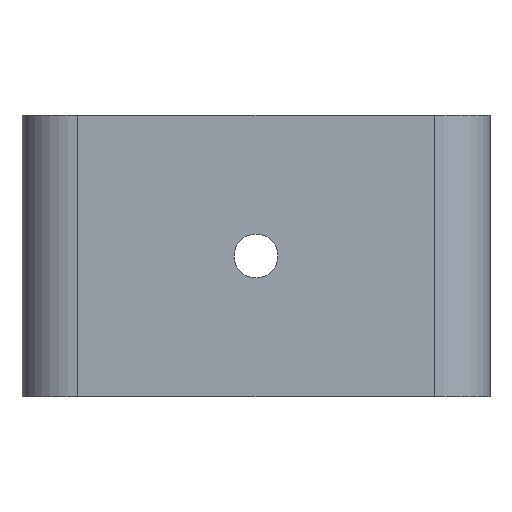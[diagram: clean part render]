
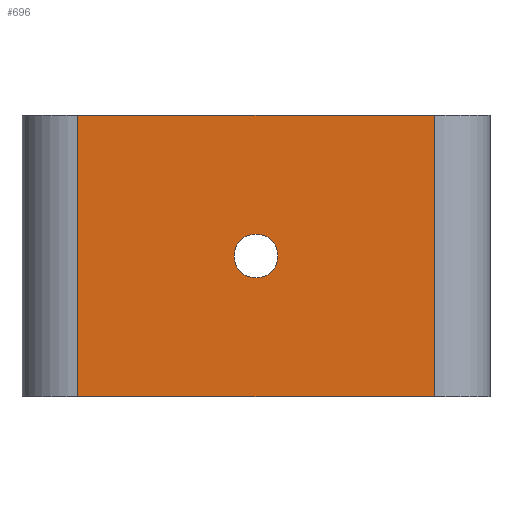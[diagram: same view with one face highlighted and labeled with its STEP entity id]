
A CAD part, front view. The second image highlights one B-rep face of the part: STEP entity #696.
In plain terms, the highlighted planar face has unit normal (0, -1, 0).
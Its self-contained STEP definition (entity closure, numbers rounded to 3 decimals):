
#44 = PLANE('',#45);
#45 = AXIS2_PLACEMENT_3D('',#46,#47,#48);
#46 = CARTESIAN_POINT('',(-31.985,-40.5,19.25));
#47 = DIRECTION('',(0.,0.,1.));
#48 = DIRECTION('',(1.,0.,0.));
#72 = CYLINDRICAL_SURFACE('',#73,7.619);
#73 = AXIS2_PLACEMENT_3D('',#74,#75,#76);
#74 = CARTESIAN_POINT('',(-24.366,-32.881,-19.25));
#75 = DIRECTION('',(0.,0.,1.));
#76 = DIRECTION('',(-1.,-0.,0.));
#100 = PLANE('',#101);
#101 = AXIS2_PLACEMENT_3D('',#102,#103,#104);
#102 = CARTESIAN_POINT('',(-31.985,-40.5,-19.25));
#103 = DIRECTION('',(0.,0.,1.));
#104 = DIRECTION('',(1.,0.,0.));
#143 = VERTEX_POINT('',#144);
#144 = CARTESIAN_POINT('',(-24.366,-40.5,19.25));
#166 = EDGE_CURVE('',#143,#167,#169,.T.);
#167 = VERTEX_POINT('',#168);
#168 = CARTESIAN_POINT('',(24.366,-40.5,19.25));
#169 = SURFACE_CURVE('',#170,(#174,#181),.PCURVE_S1.);
#170 = LINE('',#171,#172);
#171 = CARTESIAN_POINT('',(-31.985,-40.5,19.25));
#172 = VECTOR('',#173,1.);
#173 = DIRECTION('',(1.,0.,0.));
#174 = PCURVE('',#44,#175);
#175 = DEFINITIONAL_REPRESENTATION('',(#176),#180);
#176 = LINE('',#177,#178);
#177 = CARTESIAN_POINT('',(0.,0.));
#178 = VECTOR('',#179,1.);
#179 = DIRECTION('',(1.,0.));
#180 = ( GEOMETRIC_REPRESENTATION_CONTEXT(2) 
PARAMETRIC_REPRESENTATION_CONTEXT() REPRESENTATION_CONTEXT('2D SPACE',''
  ) );
#181 = PCURVE('',#182,#187);
#182 = PLANE('',#183);
#183 = AXIS2_PLACEMENT_3D('',#184,#185,#186);
#184 = CARTESIAN_POINT('',(-31.985,-40.5,-19.25));
#185 = DIRECTION('',(0.,1.,0.));
#186 = DIRECTION('',(0.,0.,1.));
#187 = DEFINITIONAL_REPRESENTATION('',(#188),#192);
#188 = LINE('',#189,#190);
#189 = CARTESIAN_POINT('',(38.5,0.));
#190 = VECTOR('',#191,1.);
#191 = DIRECTION('',(0.,1.));
#192 = ( GEOMETRIC_REPRESENTATION_CONTEXT(2) 
PARAMETRIC_REPRESENTATION_CONTEXT() REPRESENTATION_CONTEXT('2D SPACE',''
  ) );
#211 = CYLINDRICAL_SURFACE('',#212,7.619);
#212 = AXIS2_PLACEMENT_3D('',#213,#214,#215);
#213 = CARTESIAN_POINT('',(24.366,-32.881,-19.25));
#214 = DIRECTION('',(0.,0.,1.));
#215 = DIRECTION('',(0.,-1.,0.));
#412 = VERTEX_POINT('',#413);
#413 = CARTESIAN_POINT('',(-24.366,-40.5,-19.25));
#435 = EDGE_CURVE('',#412,#143,#436,.T.);
#436 = SURFACE_CURVE('',#437,(#441,#448),.PCURVE_S1.);
#437 = LINE('',#438,#439);
#438 = CARTESIAN_POINT('',(-24.366,-40.5,-19.25));
#439 = VECTOR('',#440,1.);
#440 = DIRECTION('',(0.,0.,1.));
#441 = PCURVE('',#72,#442);
#442 = DEFINITIONAL_REPRESENTATION('',(#443),#447);
#443 = LINE('',#444,#445);
#444 = CARTESIAN_POINT('',(1.571,0.));
#445 = VECTOR('',#446,1.);
#446 = DIRECTION('',(0.,1.));
#447 = ( GEOMETRIC_REPRESENTATION_CONTEXT(2) 
PARAMETRIC_REPRESENTATION_CONTEXT() REPRESENTATION_CONTEXT('2D SPACE',''
  ) );
#448 = PCURVE('',#182,#449);
#449 = DEFINITIONAL_REPRESENTATION('',(#450),#454);
#450 = LINE('',#451,#452);
#451 = CARTESIAN_POINT('',(0.,7.619));
#452 = VECTOR('',#453,1.);
#453 = DIRECTION('',(1.,0.));
#454 = ( GEOMETRIC_REPRESENTATION_CONTEXT(2) 
PARAMETRIC_REPRESENTATION_CONTEXT() REPRESENTATION_CONTEXT('2D SPACE',''
  ) );
#517 = EDGE_CURVE('',#412,#518,#520,.T.);
#518 = VERTEX_POINT('',#519);
#519 = CARTESIAN_POINT('',(24.366,-40.5,-19.25));
#520 = SURFACE_CURVE('',#521,(#525,#532),.PCURVE_S1.);
#521 = LINE('',#522,#523);
#522 = CARTESIAN_POINT('',(-31.985,-40.5,-19.25));
#523 = VECTOR('',#524,1.);
#524 = DIRECTION('',(1.,0.,0.));
#525 = PCURVE('',#100,#526);
#526 = DEFINITIONAL_REPRESENTATION('',(#527),#531);
#527 = LINE('',#528,#529);
#528 = CARTESIAN_POINT('',(0.,0.));
#529 = VECTOR('',#530,1.);
#530 = DIRECTION('',(1.,0.));
#531 = ( GEOMETRIC_REPRESENTATION_CONTEXT(2) 
PARAMETRIC_REPRESENTATION_CONTEXT() REPRESENTATION_CONTEXT('2D SPACE',''
  ) );
#532 = PCURVE('',#182,#533);
#533 = DEFINITIONAL_REPRESENTATION('',(#534),#538);
#534 = LINE('',#535,#536);
#535 = CARTESIAN_POINT('',(0.,0.));
#536 = VECTOR('',#537,1.);
#537 = DIRECTION('',(0.,1.));
#538 = ( GEOMETRIC_REPRESENTATION_CONTEXT(2) 
PARAMETRIC_REPRESENTATION_CONTEXT() REPRESENTATION_CONTEXT('2D SPACE',''
  ) );
#696 = ADVANCED_FACE('',(#697,#723),#182,.F.);
#697 = FACE_BOUND('',#698,.F.);
#698 = EDGE_LOOP('',(#699,#700,#701,#702));
#699 = ORIENTED_EDGE('',*,*,#517,.F.);
#700 = ORIENTED_EDGE('',*,*,#435,.T.);
#701 = ORIENTED_EDGE('',*,*,#166,.T.);
#702 = ORIENTED_EDGE('',*,*,#703,.F.);
#703 = EDGE_CURVE('',#518,#167,#704,.T.);
#704 = SURFACE_CURVE('',#705,(#709,#716),.PCURVE_S1.);
#705 = LINE('',#706,#707);
#706 = CARTESIAN_POINT('',(24.366,-40.5,-19.25));
#707 = VECTOR('',#708,1.);
#708 = DIRECTION('',(0.,0.,1.));
#709 = PCURVE('',#182,#710);
#710 = DEFINITIONAL_REPRESENTATION('',(#711),#715);
#711 = LINE('',#712,#713);
#712 = CARTESIAN_POINT('',(0.,56.351));
#713 = VECTOR('',#714,1.);
#714 = DIRECTION('',(1.,0.));
#715 = ( GEOMETRIC_REPRESENTATION_CONTEXT(2) 
PARAMETRIC_REPRESENTATION_CONTEXT() REPRESENTATION_CONTEXT('2D SPACE',''
  ) );
#716 = PCURVE('',#211,#717);
#717 = DEFINITIONAL_REPRESENTATION('',(#718),#722);
#718 = LINE('',#719,#720);
#719 = CARTESIAN_POINT('',(0.,0.));
#720 = VECTOR('',#721,1.);
#721 = DIRECTION('',(0.,1.));
#722 = ( GEOMETRIC_REPRESENTATION_CONTEXT(2) 
PARAMETRIC_REPRESENTATION_CONTEXT() REPRESENTATION_CONTEXT('2D SPACE',''
  ) );
#723 = FACE_BOUND('',#724,.F.);
#724 = EDGE_LOOP('',(#725));
#725 = ORIENTED_EDGE('',*,*,#726,.T.);
#726 = EDGE_CURVE('',#727,#727,#729,.T.);
#727 = VERTEX_POINT('',#728);
#728 = CARTESIAN_POINT('',(3.,-40.5,0.));
#729 = SURFACE_CURVE('',#730,(#735,#746),.PCURVE_S1.);
#730 = CIRCLE('',#731,3.);
#731 = AXIS2_PLACEMENT_3D('',#732,#733,#734);
#732 = CARTESIAN_POINT('',(0.,-40.5,0.));
#733 = DIRECTION('',(0.,-1.,0.));
#734 = DIRECTION('',(1.,0.,0.));
#735 = PCURVE('',#182,#736);
#736 = DEFINITIONAL_REPRESENTATION('',(#737),#745);
#737 = ( BOUNDED_CURVE() B_SPLINE_CURVE(2,(#738,#739,#740,#741,#742,#743
,#744),.UNSPECIFIED.,.T.,.F.) B_SPLINE_CURVE_WITH_KNOTS((1,2,2,2,2,1),(
    -2.094,0.,2.094,4.189,6.283,
8.378),.UNSPECIFIED.) CURVE() GEOMETRIC_REPRESENTATION_ITEM() 
RATIONAL_B_SPLINE_CURVE((1.,0.5,1.,0.5,1.,0.5,1.)) REPRESENTATION_ITEM(
  '') );
#738 = CARTESIAN_POINT('',(19.25,34.985));
#739 = CARTESIAN_POINT('',(24.446,34.985));
#740 = CARTESIAN_POINT('',(21.848,30.485));
#741 = CARTESIAN_POINT('',(19.25,25.985));
#742 = CARTESIAN_POINT('',(16.652,30.485));
#743 = CARTESIAN_POINT('',(14.054,34.985));
#744 = CARTESIAN_POINT('',(19.25,34.985));
#745 = ( GEOMETRIC_REPRESENTATION_CONTEXT(2) 
PARAMETRIC_REPRESENTATION_CONTEXT() REPRESENTATION_CONTEXT('2D SPACE',''
  ) );
#746 = PCURVE('',#747,#752);
#747 = CYLINDRICAL_SURFACE('',#748,3.);
#748 = AXIS2_PLACEMENT_3D('',#749,#750,#751);
#749 = CARTESIAN_POINT('',(0.,55.,0.));
#750 = DIRECTION('',(0.,-1.,0.));
#751 = DIRECTION('',(1.,0.,0.));
#752 = DEFINITIONAL_REPRESENTATION('',(#753),#757);
#753 = LINE('',#754,#755);
#754 = CARTESIAN_POINT('',(0.,95.5));
#755 = VECTOR('',#756,1.);
#756 = DIRECTION('',(1.,0.));
#757 = ( GEOMETRIC_REPRESENTATION_CONTEXT(2) 
PARAMETRIC_REPRESENTATION_CONTEXT() REPRESENTATION_CONTEXT('2D SPACE',''
  ) );
